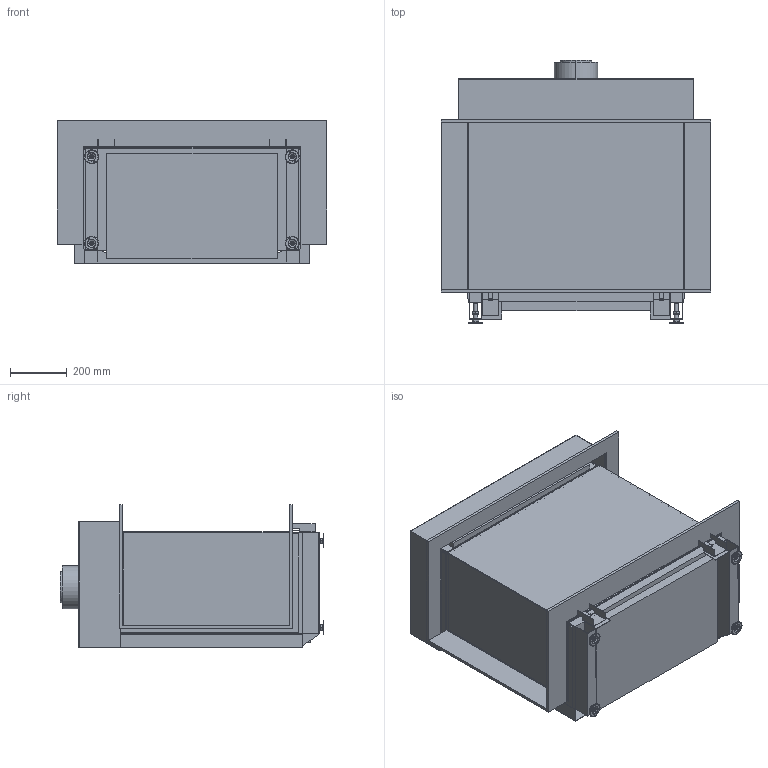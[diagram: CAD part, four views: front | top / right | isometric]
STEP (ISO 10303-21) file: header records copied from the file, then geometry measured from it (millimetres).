
FILE_DESCRIPTION(('Creo Elements/Direct Modeling STEP Export'),'2;1');
FILE_NAME('AVENUE MF 700-60 GHE 3S.stp','2019-05-13T10:53:54',(''),(''),'PTC Creo Elements/Direct Modeling STEP processor for AP214 (Solid Model)','PTC Creo Elements/Direct Modeling 19.0B 21-Mar-2015 (C) Parametric Technology GmbH','');
FILE_SCHEMA(('AUTOMOTIVE_DESIGN { 1 0 10303 214 1 1 1 1 }'));
Length unit declared in the file: millimetre
Products named in the file (13): FinishingFrame; Options; AVN_700-60_3S_Base; Glass; AVN_700-60_3S_Galva; Adjustable_floorsupport_M12.1.2.1; Adjustable_floorsupport_M12.1.1.1.1; Adjustable_floorsupport_M12.1.1.1; Adjustable_floorsupport_M12.1.1; FLOOR_SUPPORT; Support.1; AVN_700-60_3S; AVENUE_MF_700-60_GHE_3S
Assembly tree (13 placements, depth 4):
  AVENUE_MF_700-60_GHE_3S
    AVN_700-60_3S
      Support.1  x2
      FLOOR_SUPPORT
        Adjustable_floorsupport_M12.1.1
        Adjustable_floorsupport_M12.1.1.1
        Adjustable_floorsupport_M12.1.1.1.1
        Adjustable_floorsupport_M12.1.2.1
      AVN_700-60_3S_Galva
      Glass
      AVN_700-60_3S_Base
    Options
      FinishingFrame
Bounding box: 948.7 x 930 x 504 mm (x, y, z)
Volume: 55162994 mm3; surface area: 8519558.4 mm2
Topology: 10 solids, 14 shells, 700 faces, 1755 edges, 1131 vertices
Faces by surface type: plane 486, cylinder 110, cone 88, sphere 8, torus 8
Entity records: 23594 total; most frequent: CARTESIAN_POINT 7902, ORIENTED_EDGE 3400, DIRECTION 2698, EDGE_CURVE 1700, VERTEX_POINT 1095, VECTOR 1052, LINE 1052, AXIS2_PLACEMENT_3D 823
